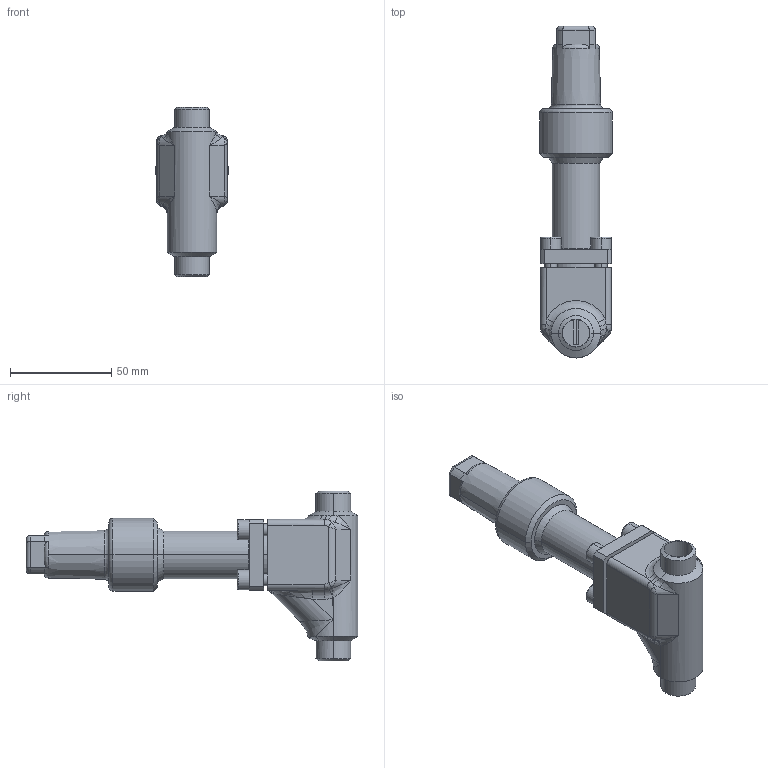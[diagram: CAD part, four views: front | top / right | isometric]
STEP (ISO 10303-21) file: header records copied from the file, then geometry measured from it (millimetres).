
FILE_DESCRIPTION (( 'STEP AP214' ), '1' );
FILE_NAME ('RVAK97300-DN010_R1_PS40.STEP', '2006-05-02T08:33:36', ( 'Herr Grams' ), ( 'AWP GmbH' ), 'SwSTEP 2.0', 'SolidWorks 2002296', '' );
FILE_SCHEMA (( 'AUTOMOTIVE_DESIGN' ));
Length unit declared in the file: millimetre
Products named in the file (6): RVAK97300-DN010_R1_PS40; RVA99300E10_Deck+Schr-DN6-15_Standard; Deckel99300E10-DN6-15_PS40_Standard; Zylinderschraube-DIN912_M 6x 18; Gehäuse96300E08-DN10_PS40_R1_Standard; Kappe96300E10_DN6-20_Standard
Assembly tree (8 placements, depth 3):
  RVAK97300-DN010_R1_PS40
    Gehäuse96300E08-DN10_PS40_R1_Standard
    Kappe96300E10_DN6-20_Standard
    RVA99300E10_Deck+Schr-DN6-15_Standard
      Zylinderschraube-DIN912_M 6x 18  x4
      Deckel99300E10-DN6-15_PS40_Standard
Bounding box: 36 x 164.2 x 84 mm (x, y, z)
Volume: 116406.7 mm3; surface area: 37175.8 mm2
Topology: 7 solids, 7 shells, 263 faces, 614 edges, 373 vertices
Faces by surface type: cylinder 92, plane 89, bspline 29, cone 29, torus 24
Entity records: 18103 total; most frequent: CARTESIAN_POINT 12811, ORIENTED_EDGE 984, DIRECTION 958, EDGE_CURVE 492, AXIS2_PLACEMENT_3D 396, VERTEX_POINT 301, EDGE_LOOP 231, FACE_OUTER_BOUND 209
